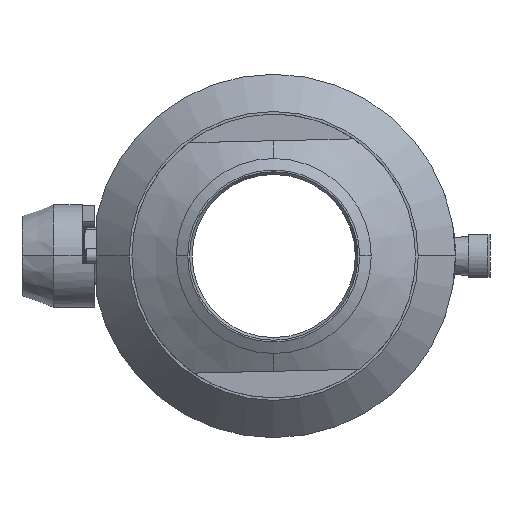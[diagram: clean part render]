
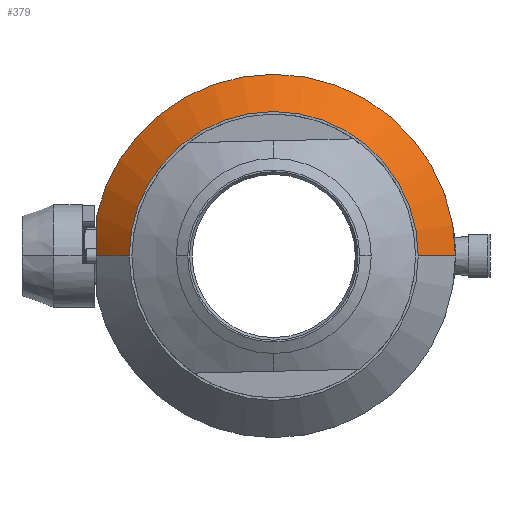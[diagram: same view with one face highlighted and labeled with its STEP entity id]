
A CAD part, left-side view. The second image highlights one B-rep face of the part: STEP entity #379.
In plain terms, the highlighted conical face has half-angle 45 degrees and reference radius 92 mm.
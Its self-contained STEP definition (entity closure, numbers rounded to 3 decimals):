
#379=ADVANCED_FACE('',(#1676),#1678,.T.);
#1676=FACE_OUTER_BOUND('',#1677,.T.);
#1677=EDGE_LOOP('',(#2840,#2841,#2842,#2843,#2844,#2845));
#1678=CONICAL_SURFACE('',#1679,92.,0.785);
#1679=AXIS2_PLACEMENT_3D('',#1680,#1681,#1682);
#1680=CARTESIAN_POINT('',(-38.048,-7.581,1.127));
#1681=DIRECTION('',(1.,0.,0.));
#1682=DIRECTION('',(0.,1.,0.));
#2840=ORIENTED_EDGE('',*,*,#3462,.T.);
#2841=ORIENTED_EDGE('',*,*,#3463,.T.);
#2842=ORIENTED_EDGE('',*,*,#3464,.T.);
#2843=ORIENTED_EDGE('',*,*,#3465,.T.);
#2844=ORIENTED_EDGE('',*,*,#3466,.T.);
#2845=ORIENTED_EDGE('',*,*,#3467,.F.);
#3462=EDGE_CURVE('',#4241,#4242,#4243,.T.);
#3463=EDGE_CURVE('',#4242,#4244,#4245,.T.);
#3464=EDGE_CURVE('',#4244,#4246,#4247,.T.);
#3465=EDGE_CURVE('',#4246,#4248,#4249,.T.);
#3466=EDGE_CURVE('',#4248,#4250,#4251,.T.);
#3467=EDGE_CURVE('',#4241,#4250,#4252,.T.);
#4241=VERTEX_POINT('',#8008);
#4242=VERTEX_POINT('',#8009);
#4243=CIRCLE('',#8010,81.5);
#4244=VERTEX_POINT('',#8014);
#4245=LINE('',#8015,#8016);
#4246=VERTEX_POINT('',#8018);
#4247=CIRCLE('',#8019,102.5);
#4248=VERTEX_POINT('',#8023);
#4249=CIRCLE('',#8024,102.5);
#4250=VERTEX_POINT('',#8028);
#4251=B_SPLINE_CURVE_WITH_KNOTS('',3,
(#8029,#8030,#8031,#8032,#8033,#8034,#8035,#8036,#8037,#8038,#8039,#8040,#8041,#8042),
.UNSPECIFIED.,.F.,.F.,
(4,1,1,1,1,1,1,1,1,1,1,4),
(0.,0.137,0.247,0.329,0.412,0.495,
0.579,0.663,0.747,0.831,0.915,
1.),
.UNSPECIFIED.);
#4252=LINE('',#8043,#8044);
#8008=CARTESIAN_POINT('',(-48.548,73.919,1.127));
#8009=CARTESIAN_POINT('',(-48.548,-89.081,1.127));
#8010=AXIS2_PLACEMENT_3D('',#8011,#8012,#8013);
#8011=CARTESIAN_POINT('',(-48.548,-7.581,1.127));
#8012=DIRECTION('',(1.,-0.,0.));
#8013=DIRECTION('',(0.,1.,0.));
#8014=CARTESIAN_POINT('',(-27.548,-110.081,1.127));
#8015=CARTESIAN_POINT('',(-48.548,-89.081,1.127));
#8016=VECTOR('',#8017,1.);
#8017=DIRECTION('',(0.707,-0.707,0.));
#8018=CARTESIAN_POINT('',(-27.548,-7.581,103.627));
#8019=AXIS2_PLACEMENT_3D('',#8020,#8021,#8022);
#8020=CARTESIAN_POINT('',(-27.548,-7.581,1.127));
#8021=DIRECTION('',(-1.,0.,0.));
#8022=DIRECTION('',(0.,-1.,0.));
#8023=CARTESIAN_POINT('',(-27.548,92.419,23.627));
#8024=AXIS2_PLACEMENT_3D('',#8025,#8026,#8027);
#8025=CARTESIAN_POINT('',(-27.548,-7.581,1.127));
#8026=DIRECTION('',(-1.,0.,0.));
#8027=DIRECTION('',(0.,0.,1.));
#8028=CARTESIAN_POINT('',(-30.048,92.419,1.127));
#8029=CARTESIAN_POINT('',(-27.548,92.419,23.627));
#8030=CARTESIAN_POINT('',(-27.772,92.419,22.608));
#8031=CARTESIAN_POINT('',(-28.149,92.419,20.77));
#8032=CARTESIAN_POINT('',(-28.59,92.419,18.311));
#8033=CARTESIAN_POINT('',(-28.916,92.419,16.254));
#8034=CARTESIAN_POINT('',(-29.177,92.419,14.393));
#8035=CARTESIAN_POINT('',(-29.406,92.419,12.524));
#8036=CARTESIAN_POINT('',(-29.602,92.419,10.644));
#8037=CARTESIAN_POINT('',(-29.763,92.419,8.755));
#8038=CARTESIAN_POINT('',(-29.89,92.419,6.858));
#8039=CARTESIAN_POINT('',(-29.981,92.419,4.954));
#8040=CARTESIAN_POINT('',(-30.036,92.419,3.043));
#8041=CARTESIAN_POINT('',(-30.048,92.419,1.767));
#8042=CARTESIAN_POINT('',(-30.048,92.419,1.127));
#8043=CARTESIAN_POINT('',(-48.548,73.919,1.127));
#8044=VECTOR('',#8045,1.);
#8045=DIRECTION('',(0.707,0.707,0.));
